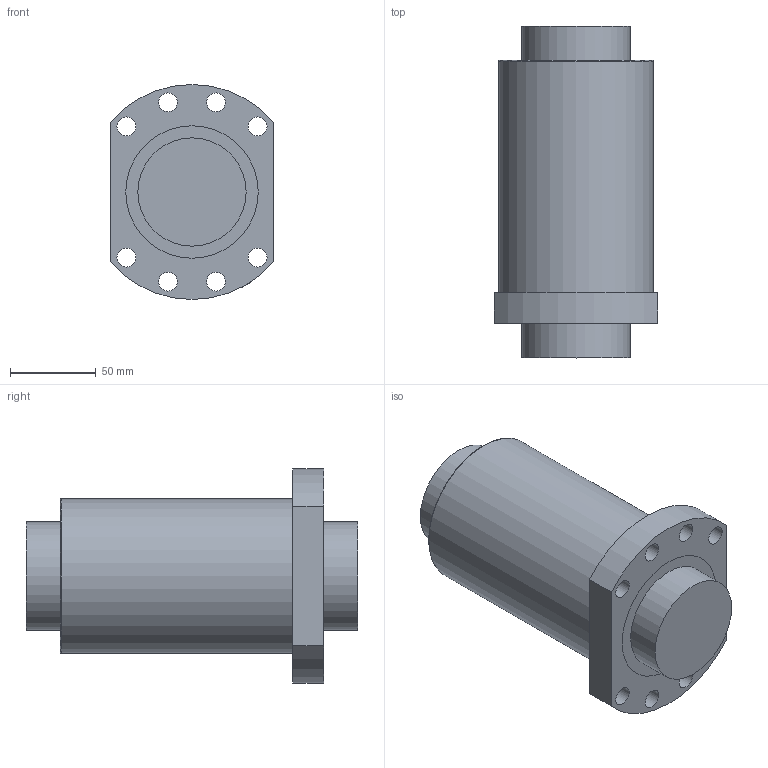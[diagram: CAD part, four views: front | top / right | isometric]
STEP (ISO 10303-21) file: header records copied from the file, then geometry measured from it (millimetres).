
FILE_DESCRIPTION(/* description */ (''),/* implementation_level */ '2;1');
FILE_NAME(/* name */ 'OFU06310-4.stp',/* time_stamp */ '2017-03-13T10:55:23+08:00',/* author */ (''),/* organization */ (''),/* preprocessor_version */ 'ST-DEVELOPER v11',/* originating_system */ 'SIEMENS UGS NX 6.0',/* authorisation */ '');
FILE_SCHEMA (('CONFIG_CONTROL_DESIGN'));
Length unit declared in the file: millimetre
Products named in the file (1): OFU06310-4
Bounding box: 95 x 193 x 125 mm (x, y, z)
Volume: 1160090.4 mm3; surface area: 149980.9 mm2
Topology: 4 solids, 4 shells, 36 faces, 79 edges, 55 vertices
Faces by surface type: cylinder 21, plane 14, torus 1
Full cylindrical faces by diameter (mm): 4 x1, 7 x1, 11 x8, 63 x4, 77 x4, 90 x1
Entity records: 1086 total; most frequent: CARTESIAN_POINT 249, DIRECTION 164, ORIENTED_EDGE 102, EDGE_LOOP 84, FACE_BOUND 79, AXIS2_PLACEMENT_3D 78, EDGE_CURVE 51, VERTEX_POINT 47
